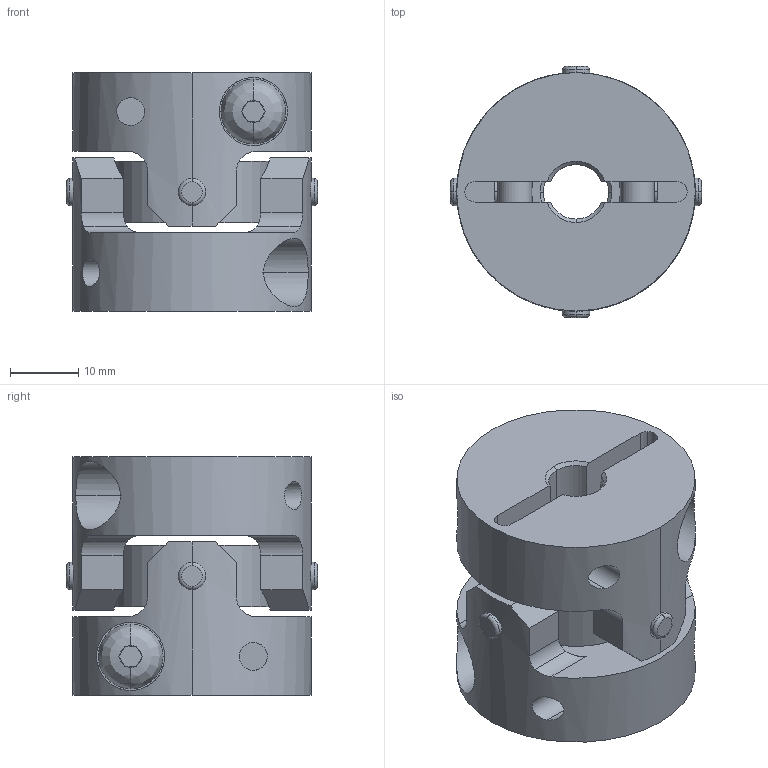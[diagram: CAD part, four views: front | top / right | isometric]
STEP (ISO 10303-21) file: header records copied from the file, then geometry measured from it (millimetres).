
FILE_DESCRIPTION((''),'2;1');
FILE_NAME('UA-35C-8×9.525.stp','2013-11-12T15:47:19',(''),(''),'AutoCAD STEP 2000i','AutoCAD 2000i',', , ');
FILE_SCHEMA(('CONFIG_CONTROL_DESIGN'));
Length unit declared in the file: millimetre
Products named in the file (6): UA-35C-8×8; 忣兜1; UA-3502-D08-1; BTN-M5; UA-3502-D08; UA35-SEN
Assembly tree (6 placements, depth 3):
  UA-35C-8×8
    忣兜1
    UA-3502-D08-1
      BTN-M5
    UA-3502-D08
      BTN-M5
    UA35-SEN
Bounding box: 36.83 x 36.83 x 35 mm (x, y, z)
Volume: 23164.9 mm3; surface area: 12032.7 mm2
Topology: 1 solids, 1 shells, 250 faces, 646 edges, 408 vertices
Faces by surface type: plane 122, cylinder 96, cone 16, bspline 8, torus 8
Entity records: 9647 total; most frequent: CARTESIAN_POINT 3391, ORIENTED_EDGE 1292, DIRECTION 1288, EDGE_CURVE 646, AXIS2_PLACEMENT_3D 497, VERTEX_POINT 408, VECTOR 294, LINE 294
